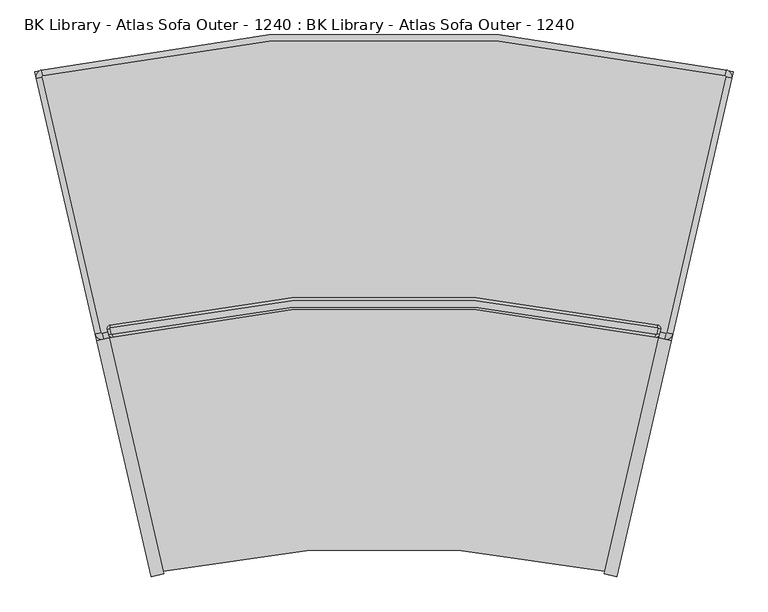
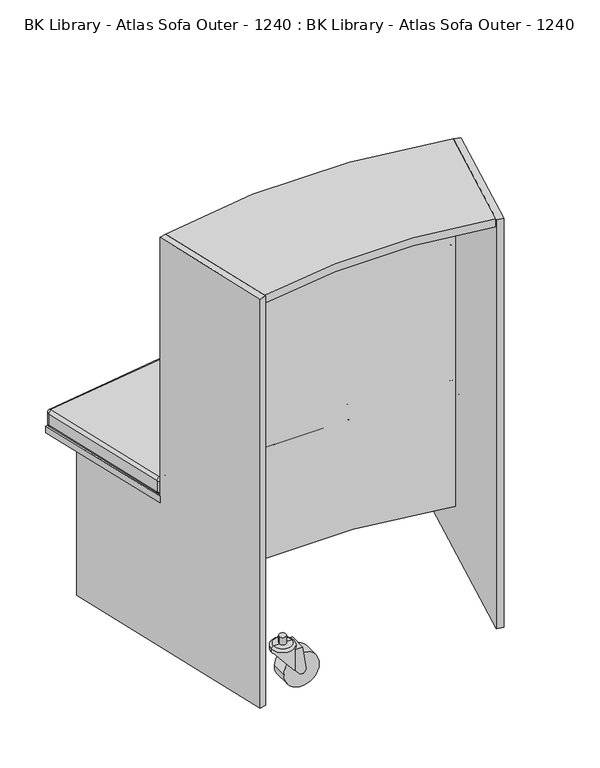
"""IFC4 building model written with IfcOpenShell, lengths in millimetres: furniture geometry, BK Library - Atlas Sofa Outer - 1240 : BK Library - Atlas Sofa Outer - 1240."""

from ifc_helpers import new_model, si_unit, point, frame, frame_2d, origin, place, context, project, spatial, polyline, circle_curve, ellipse_curve, trimmed, segment, composite_curve, outline, extrude, source, transform, mapped, element, save
from ifc_brep_helpers import plane_surface, cylinder_surface, revolved_surface, advanced_brep


def bk_library_atlas_sofa_outer_1240_bk_library_atlas_sofa_outer_185b53af(model_context):
    return source(origin(), model_context, "Body", "SolidModel", [
        advanced_brep(
        [(403.7139871, 34.2467546, 912.6999998), (404.9104332, 34.9971014, 912.6999998), (406.7463468, 42.9588262, 912.6999998), (405.9919545, 44.1590138, 912.6999998), (-405.9919545, 44.1590138, 912.6999998), (-406.7463468, 42.9588262, 912.6999998), (-404.9104332, 34.9971014, 912.6999998), (-403.7139871, 34.2467546, 912.6999998), (404.9104332, 34.9971014, 512.6999998), (403.7139871, 34.2467546, 512.6999998), (-403.7139871, 34.2467546, 512.6999998), (-404.9104332, 34.9971014, 512.6999998), (-406.7463468, 42.9588262, 512.6999998), (-405.9919545, 44.1590138, 512.6999998), (405.9919545, 44.1590138, 512.6999998), (406.7463468, 42.9588262, 512.6999998), (408.8081489, 34.0983176, 908.6999998), (402.8259182, 30.3465836, 908.6999998), (402.8259182, 30.3465836, 516.6999998), (408.8081489, 34.0983176, 516.6999998), (410.6440625, 42.0600424, 908.6999998), (410.6440625, 42.0600424, 516.6999998), (406.872101, 48.0609802, 908.6999998), (406.872101, 48.0609802, 516.6999998), (-406.872101, 48.0609802, 908.6999998), (-406.872101, 48.0609802, 516.6999998), (-410.6440625, 42.0600424, 908.6999998), (-410.6440625, 42.0600424, 516.6999998), (-408.8081489, 34.0983176, 908.6999998), (-408.8081489, 34.0983176, 516.6999998), (-402.8259182, 30.3465836, 908.6999998), (-402.8259182, 30.3465836, 516.6999998)],
        [
            (0, 1, circle_curve(frame((403.9360043, 35.2217973, 912.6999998), z_axis=(0.0, 0.0, 1.0), x_axis=(-0.22201720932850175, -0.9750427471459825, 0.0)), 1.0)),
            (1, 2),
            (2, 3, circle_curve(frame((405.7719179, 43.1835222, 912.6999998), z_axis=(0.0, 0.0, 1.0), x_axis=(0.9744289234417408, -0.22469595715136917, 0.0)), 1.0)),
            (3, 4, circle_curve(frame((0.0, -1755.7311313, 912.6999998), z_axis=(0.0, 0.0, 1.0), x_axis=(0.22003662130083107, 0.9754916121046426, 0.0)), 1845.1108372)),
            (4, 5, circle_curve(frame((-405.7719179, 43.1835222, 912.6999998), z_axis=(0.0, 0.0, 1.0), x_axis=(-0.22003662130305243, 0.9754916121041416, 0.0)), 1.0)),
            (5, 6),
            (6, 7, circle_curve(frame((-403.9360043, 35.2217973, 912.6999998), z_axis=(0.0, 0.0, 1.0), x_axis=(-0.97442892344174, -0.22469595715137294, 0.0)), 1.0)),
            (7, 0, circle_curve(frame((0.0, -1738.7617261, 912.6999998), z_axis=(0.0, 0.0, -1.0), x_axis=(-0.2220172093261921, 0.9750427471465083, 0.0)), 1818.3905125)),
            (8, 9, circle_curve(frame((403.9360043, 35.2217973, 512.6999998), z_axis=(0.0, 0.0, -1.0), x_axis=(-0.22201720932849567, -0.9750427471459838, 0.0)), 1.0)),
            (9, 10, circle_curve(frame((0.0, -1738.7617261, 512.6999998), z_axis=(0.0, 0.0, 1.0), x_axis=(-0.2220172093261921, 0.9750427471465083, 0.0)), 1818.3905125)),
            (10, 11, circle_curve(frame((-403.9360043, 35.2217973, 512.6999998), z_axis=(0.0, 0.0, -1.0), x_axis=(-0.97442892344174, -0.22469595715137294, 0.0)), 1.0)),
            (11, 12),
            (12, 13, circle_curve(frame((-405.7719179, 43.1835222, 512.6999998), z_axis=(0.0, 0.0, -1.0), x_axis=(-0.22003662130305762, 0.9754916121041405, 0.0)), 1.0)),
            (13, 14, circle_curve(frame((0.0, -1755.7311313, 512.6999998), z_axis=(0.0, 0.0, -1.0), x_axis=(0.22003662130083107, 0.9754916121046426, 0.0)), 1845.1108372)),
            (14, 15, circle_curve(frame((405.7719179, 43.1835222, 512.6999998), z_axis=(0.0, 0.0, -1.0), x_axis=(0.9744289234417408, -0.22469595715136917, 0.0)), 1.0)),
            (15, 8),
            (16, 17, circle_curve(frame((403.9360043, 35.2217973, 908.6999998), z_axis=(0.0, 0.0, -1.0), x_axis=(1.0, 0.0, 0.0)), 5.0)),
            (17, 18),
            (18, 19, circle_curve(frame((403.9360043, 35.2217973, 516.6999998), z_axis=(0.0, 0.0, 1.0), x_axis=(1.0, 0.0, 0.0)), 5.0)),
            (19, 16),
            (20, 16),
            (19, 21),
            (21, 20),
            (22, 20, circle_curve(frame((405.7719179, 43.1835222, 908.6999998), z_axis=(0.0, 0.0, -1.0), x_axis=(1.0, 0.0, 0.0)), 5.0)),
            (21, 23, circle_curve(frame((405.7719179, 43.1835222, 516.6999998), z_axis=(0.0, 0.0, 1.0), x_axis=(1.0, 0.0, 0.0)), 5.0)),
            (23, 22),
            (24, 22, circle_curve(frame((0.0, -1755.7311313, 908.6999998), z_axis=(0.0, 0.0, -1.0), x_axis=(1.0, 0.0, 0.0)), 1849.1108372)),
            (23, 25, circle_curve(frame((0.0, -1755.7311313, 516.6999998), z_axis=(0.0, 0.0, 1.0), x_axis=(1.0, 0.0, 0.0)), 1849.1108372)),
            (25, 24),
            (26, 24, circle_curve(frame((-405.7719179, 43.1835222, 908.6999998), z_axis=(0.0, 0.0, -1.0), x_axis=(1.0, 0.0, 0.0)), 5.0)),
            (25, 27, circle_curve(frame((-405.7719179, 43.1835222, 516.6999998), z_axis=(0.0, 0.0, 1.0), x_axis=(1.0, 0.0, 0.0)), 5.0)),
            (27, 26),
            (28, 26),
            (27, 29),
            (29, 28),
            (30, 28, circle_curve(frame((-403.9360043, 35.2217973, 908.6999998), z_axis=(0.0, 0.0, -1.0), x_axis=(1.0, 0.0, 0.0)), 5.0)),
            (29, 31, circle_curve(frame((-403.9360043, 35.2217973, 516.6999998), z_axis=(0.0, 0.0, 1.0), x_axis=(1.0, 0.0, 0.0)), 5.0)),
            (31, 30),
            (17, 30, circle_curve(frame((0.0, -1738.7617261, 908.6999998), z_axis=(0.0, 0.0, 1.0), x_axis=(1.0, 0.0, 0.0)), 1814.3905125)),
            (31, 18, circle_curve(frame((0.0, -1738.7617261, 516.6999998), z_axis=(0.0, 0.0, -1.0), x_axis=(1.0, 0.0, 0.0)), 1814.3905125)),
            (16, 1, circle_curve(frame((404.9104332, 34.9971014, 908.6999998), z_axis=(-0.22469595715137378, -0.9744289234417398, 0.0), x_axis=(-0.9744289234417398, 0.22469595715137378, 0.0)), 4.0)),
            (0, 17, circle_curve(frame((403.7139871, 34.2467546, 908.6999998), z_axis=(0.9750427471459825, -0.2220172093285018, 0.0), x_axis=(0.2220172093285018, 0.9750427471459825, 0.0)), 4.0)),
            (20, 2, circle_curve(frame((406.7463468, 42.9588262, 908.6999998), z_axis=(-0.22469595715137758, -0.974428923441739, 0.0), x_axis=(-0.974428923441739, 0.22469595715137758, 0.0)), 4.0)),
            (22, 3, circle_curve(frame((405.9919545, 44.1590138, 908.6999998), z_axis=(0.9754916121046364, -0.22003662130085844, 0.0), x_axis=(-0.22003662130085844, -0.9754916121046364, 0.0)), 4.0)),
            (24, 4, circle_curve(frame((-405.9919545, 44.1590138, 908.6999998), z_axis=(0.9754916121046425, 0.22003662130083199, 0.0), x_axis=(0.22003662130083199, -0.9754916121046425, 0.0)), 4.0)),
            (26, 5, circle_curve(frame((-406.7463468, 42.9588262, 908.6999998), z_axis=(-0.22469595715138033, 0.9744289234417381, 0.0), x_axis=(0.9744289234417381, 0.22469595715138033, 0.0)), 4.0)),
            (28, 6, circle_curve(frame((-404.9104332, 34.9971014, 908.6999998), z_axis=(-0.22469595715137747, 0.974428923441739, 0.0), x_axis=(0.974428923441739, 0.22469595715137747, 0.0)), 4.0)),
            (30, 7, circle_curve(frame((-403.7139871, 34.2467546, 908.6999998), z_axis=(-0.9750427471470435, -0.22201720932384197, 0.0), x_axis=(-0.22201720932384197, 0.9750427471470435, 0.0)), 4.0)),
            (8, 19, circle_curve(frame((404.9104332, 34.9971014, 516.6999998), z_axis=(-0.22469595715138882, -0.9744289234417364, 0.0), x_axis=(-0.9744289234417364, 0.22469595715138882, 0.0)), 4.0)),
            (18, 9, circle_curve(frame((403.7139871, 34.2467546, 516.6999998), z_axis=(0.9750427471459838, -0.22201720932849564, 0.0), x_axis=(0.22201720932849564, 0.9750427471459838, 0.0)), 4.0)),
            (15, 21, circle_curve(frame((406.7463468, 42.9588262, 516.6999998), z_axis=(-0.2246959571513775, -0.974428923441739, 0.0), x_axis=(-0.974428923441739, 0.2246959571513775, 0.0)), 4.0)),
            (14, 23, circle_curve(frame((405.9919545, 44.1590138, 516.6999998), z_axis=(0.9754916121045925, -0.2200366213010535, 0.0), x_axis=(-0.2200366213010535, -0.9754916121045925, 0.0)), 4.0)),
            (13, 25, circle_curve(frame((-405.9919545, 44.1590138, 516.6999998), z_axis=(0.9754916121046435, 0.22003662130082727, 0.0), x_axis=(0.22003662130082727, -0.9754916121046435, 0.0)), 4.0)),
            (12, 27, circle_curve(frame((-406.7463468, 42.9588262, 516.6999998), z_axis=(-0.22469595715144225, 0.974428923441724, 0.0), x_axis=(0.974428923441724, 0.22469595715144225, 0.0)), 4.0)),
            (11, 29, circle_curve(frame((-404.9104332, 34.9971014, 516.6999998), z_axis=(-0.22469595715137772, 0.974428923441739, 0.0), x_axis=(0.974428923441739, 0.22469595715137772, 0.0)), 4.0)),
            (10, 31, circle_curve(frame((-403.7139871, 34.2467546, 516.6999998), z_axis=(-0.9750427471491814, -0.22201720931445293, 0.0), x_axis=(-0.22201720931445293, 0.9750427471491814, 0.0)), 4.0)),
        ],
        [
            plane_surface(frame((408.9360043, 35.2217973, 912.6999998), z_axis=(0.0, 0.0, 1.0), x_axis=(0.0, 1.0, 0.0))),
            plane_surface(frame((408.9360043, 35.2217973, 512.6999998), z_axis=(0.0, 0.0, -1.0), x_axis=(0.0, -1.0, 0.0))),
            cylinder_surface(frame((403.9360043, 35.2217973, 512.6999998), z_axis=(0.0, 0.0, 1.0), x_axis=(1.0, 0.0, 0.0)), 5.0),
            plane_surface(frame((408.8081489, 34.0983176, 912.6999998), z_axis=(0.9744289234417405, -0.22469595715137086, 0.0), x_axis=(0.0, 0.0, -1.0))),
            cylinder_surface(frame((405.7719179, 43.1835222, 512.6999998), z_axis=(0.0, 0.0, 1.0), x_axis=(1.0, 0.0, 0.0)), 5.0),
            cylinder_surface(frame((0.0, -1755.7311313, 512.6999998), z_axis=(0.0, 0.0, 1.0), x_axis=(1.0, 0.0, 0.0)), 1849.1108372),
            cylinder_surface(frame((-405.7719179, 43.1835222, 512.6999998), z_axis=(0.0, 0.0, 1.0), x_axis=(1.0, 0.0, 0.0)), 5.0),
            plane_surface(frame((-410.6440625, 42.0600424, 912.6999998), z_axis=(-0.974428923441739, -0.2246959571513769, 0.0), x_axis=(0.0, 0.0, -1.0))),
            cylinder_surface(frame((-403.9360043, 35.2217973, 512.6999998), z_axis=(0.0, 0.0, 1.0), x_axis=(1.0, 0.0, 0.0)), 5.0),
            revolved_surface(polyline([(1814.3905125, -1738.7617261, 516.6999998), (1814.3905125, -1738.7617261, 908.6999998)]), (0.0, -1738.7617261, 512.6999998), (0.0, 0.0, -1.0)),
            revolved_surface(trimmed(ellipse_curve(frame((403.7139871, 34.2467546, 908.6999998), z_axis=(-0.9750427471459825, 0.2220172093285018, 0.0), x_axis=(0.2220172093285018, 0.9750427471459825, 0.0)), 4.0, 4.0), [point((402.8259182, 30.3465836, 908.6999998))], [point((403.7139871, 34.2467546, 912.6999998))], True, "CARTESIAN"), (403.9360043, 35.2217973, 0.0), (0.0, 0.0, 1.0)),
            cylinder_surface(frame((404.9104332, 34.9971014, 908.6999998), z_axis=(0.22469595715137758, 0.974428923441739, 0.0), x_axis=(-0.974428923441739, 0.22469595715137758, 0.0)), 4.0),
            revolved_surface(trimmed(ellipse_curve(frame((406.7463468, 42.9588262, 908.6999998), z_axis=(-0.22469595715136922, -0.9744289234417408, 0.0), x_axis=(-0.9744289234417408, 0.22469595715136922, 0.0)), 4.0, 4.0), [point((410.6440625, 42.0600424, 908.6999998))], [point((406.7463468, 42.9588262, 912.6999998))], True, "CARTESIAN"), (405.7719179, 43.1835222, 0.0), (0.0, 0.0, 1.0)),
            revolved_surface(trimmed(ellipse_curve(frame((405.9919545, 44.1590138, 908.6999998), z_axis=(0.9754916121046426, -0.2200366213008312, 0.0), x_axis=(-0.2200366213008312, -0.9754916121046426, 0.0)), 4.0, 4.0), [point((406.872101, 48.0609802, 908.6999998))], [point((405.9919545, 44.1590138, 912.6999998))], True, "CARTESIAN"), (0.0, -1755.7311313, 0.0), (0.0, 0.0, 1.0)),
            revolved_surface(trimmed(ellipse_curve(frame((-405.9919545, 44.1590138, 908.6999998), z_axis=(0.9754916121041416, 0.22003662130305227, 0.0), x_axis=(0.22003662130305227, -0.9754916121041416, 0.0)), 4.0, 4.0), [point((-406.872101, 48.0609802, 908.6999998))], [point((-405.9919545, 44.1590138, 912.6999998))], True, "CARTESIAN"), (-405.7719179, 43.1835222, 0.0), (0.0, 0.0, 1.0)),
            cylinder_surface(frame((-406.7463468, 42.9588262, 908.6999998), z_axis=(0.22469595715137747, -0.974428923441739, 0.0), x_axis=(0.974428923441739, 0.22469595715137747, 0.0)), 4.0),
            revolved_surface(trimmed(ellipse_curve(frame((-404.9104332, 34.9971014, 908.6999998), z_axis=(-0.2246959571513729, 0.97442892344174, 0.0), x_axis=(0.97442892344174, 0.2246959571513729, 0.0)), 4.0, 4.0), [point((-408.8081489, 34.0983176, 908.6999998))], [point((-404.9104332, 34.9971014, 912.6999998))], True, "CARTESIAN"), (-403.9360043, 35.2217973, 0.0), (0.0, 0.0, 1.0)),
            revolved_surface(trimmed(ellipse_curve(frame((-403.7139871, 34.2467546, 908.6999998), z_axis=(-0.9750427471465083, -0.22201720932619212, 0.0), x_axis=(-0.22201720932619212, 0.9750427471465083, 0.0)), 4.0, 4.0), [point((-402.8259182, 30.3465836, 908.6999998))], [point((-403.7139871, 34.2467546, 912.6999998))], True, "CARTESIAN"), (0.0, -1738.7617261, 0.0), (0.0, 0.0, -1.0)),
            revolved_surface(trimmed(ellipse_curve(frame((403.7139871, 34.2467546, 516.6999998), z_axis=(-0.9750427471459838, 0.22201720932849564, 0.0), x_axis=(0.22201720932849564, 0.9750427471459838, 0.0)), 4.0, 4.0), [point((403.7139871, 34.2467546, 512.6999998))], [point((402.8259182, 30.3465836, 516.6999998))], True, "CARTESIAN"), (403.9360043, 35.2217973, 1425.3999996), (0.0, 0.0, 1.0)),
            cylinder_surface(frame((404.9104332, 34.9971014, 516.6999998), z_axis=(0.2246959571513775, 0.974428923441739, 0.0), x_axis=(-0.974428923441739, 0.2246959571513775, 0.0)), 4.0),
            revolved_surface(trimmed(ellipse_curve(frame((406.7463468, 42.9588262, 516.6999998), z_axis=(-0.22469595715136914, -0.9744289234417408, 0.0), x_axis=(-0.9744289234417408, 0.22469595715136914, 0.0)), 4.0, 4.0), [point((406.7463468, 42.9588262, 512.6999998))], [point((410.6440625, 42.0600424, 516.6999998))], True, "CARTESIAN"), (405.7719179, 43.1835222, 1425.3999996), (0.0, 0.0, 1.0)),
            revolved_surface(trimmed(ellipse_curve(frame((405.9919545, 44.1590138, 516.6999998), z_axis=(0.9754916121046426, -0.22003662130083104, 0.0), x_axis=(-0.22003662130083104, -0.9754916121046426, 0.0)), 4.0, 4.0), [point((405.9919545, 44.1590138, 512.6999998))], [point((406.872101, 48.0609802, 516.6999998))], True, "CARTESIAN"), (0.0, -1755.7311313, 1425.3999996), (0.0, 0.0, 1.0)),
            revolved_surface(trimmed(ellipse_curve(frame((-405.9919545, 44.1590138, 516.6999998), z_axis=(0.9754916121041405, 0.2200366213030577, 0.0), x_axis=(0.2200366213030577, -0.9754916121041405, 0.0)), 4.0, 4.0), [point((-405.9919545, 44.1590138, 512.6999998))], [point((-406.872101, 48.0609802, 516.6999998))], True, "CARTESIAN"), (-405.7719179, 43.1835222, 1425.3999996), (0.0, 0.0, 1.0)),
            cylinder_surface(frame((-406.7463468, 42.9588262, 516.6999998), z_axis=(0.22469595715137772, -0.974428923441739, 0.0), x_axis=(0.974428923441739, 0.22469595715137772, 0.0)), 4.0),
            revolved_surface(trimmed(ellipse_curve(frame((-404.9104332, 34.9971014, 516.6999998), z_axis=(-0.22469595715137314, 0.97442892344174, 0.0), x_axis=(0.97442892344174, 0.22469595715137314, 0.0)), 4.0, 4.0), [point((-404.9104332, 34.9971014, 512.6999998))], [point((-408.8081489, 34.0983176, 516.6999998))], True, "CARTESIAN"), (-403.9360043, 35.2217973, 1425.3999996), (0.0, 0.0, 1.0)),
            revolved_surface(trimmed(ellipse_curve(frame((-403.7139871, 34.2467546, 516.6999998), z_axis=(-0.9750427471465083, -0.22201720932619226, 0.0), x_axis=(-0.22201720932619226, 0.9750427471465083, 0.0)), 4.0, 4.0), [point((-403.7139871, 34.2467546, 512.6999998))], [point((-402.8259182, 30.3465836, 516.6999998))], True, "CARTESIAN"), (0.0, -1738.7617261, 1425.3999996), (0.0, 0.0, -1.0)),
        ],
        [
            (0, [[1, 2, 3, 4, 5, 6, 7, 8]]),
            (1, [[9, 10, 11, 12, 13, 14, 15, 16]]),
            (2, [[17, 18, 19, 20]]),
            (3, [[21, -20, 22, 23]]),
            (4, [[24, -23, 25, 26]]),
            (5, [[27, -26, 28, 29]]),
            (6, [[30, -29, 31, 32]]),
            (7, [[33, -32, 34, 35]]),
            (8, [[36, -35, 37, 38]]),
            (9, [[39, -38, 40, -18]]),
            (10, [[41, -1, 42, -17]]),
            (11, [[-41, -21, 43, -2]]),
            (12, [[-43, -24, 44, -3]]),
            (13, [[-44, -27, 45, -4]]),
            (14, [[-45, -30, 46, -5]]),
            (15, [[-46, -33, 47, -6]]),
            (16, [[-47, -36, 48, -7]]),
            (17, [[-42, -8, -48, -39]]),
            (18, [[49, -19, 50, -9]]),
            (19, [[-49, -16, 51, -22]]),
            (20, [[-51, -15, 52, -25]]),
            (21, [[-52, -14, 53, -28]]),
            (22, [[-53, -13, 54, -31]]),
            (23, [[-54, -12, 55, -34]]),
            (24, [[-55, -11, 56, -37]]),
            (25, [[-50, -40, -56, -10]]),
        ],
    ),
        advanced_brep(
        [(-419.6774617, 36.7301974, 512.6999998), (-418.4783368, 35.9804644, 512.6999998), (-409.7084765, 38.002728, 512.6999998), (409.7084765, 38.002728, 512.6999998), (418.4783368, 35.9804644, 512.6999998), (419.6774617, 36.7301974, 512.6999998), (507.3202, 416.806547, 512.6999998), (506.5732105, 418.0050352, 512.6999998), (-506.5732105, 418.0050352, 512.6999998), (-507.3202, 416.806547, 512.6999998), (-418.4783368, 35.9804644, 462.6999998), (-419.6774617, 36.7301974, 462.6999998), (-507.3202, 416.806547, 462.6999998), (-506.5732105, 418.0050352, 462.6999998), (506.5732105, 418.0050352, 462.6999998), (507.3202, 416.806547, 462.6999998), (419.6774617, 36.7301974, 462.6999998), (418.4783368, 35.9804644, 462.6999998), (409.7084765, 38.002728, 462.6999998), (-409.7084765, 38.002728, 462.6999998), (-516.0900603, 414.7842834, 503.6999998), (-508.6201649, 426.7691653, 503.6999998), (-508.6201649, 426.7691653, 471.6999998), (-516.0900603, 414.7842834, 471.6999998), (-428.447322, 34.7079338, 503.6999998), (-428.447322, 34.7079338, 471.6999998), (-416.4560732, 27.2106041, 503.6999998), (-416.4560732, 27.2106041, 471.6999998), (-407.6862129, 29.2328677, 503.6999998), (-407.6862129, 29.2328677, 471.6999998), (407.6862129, 29.2328677, 503.6999998), (407.6862129, 29.2328677, 471.6999998), (416.4560732, 27.2106041, 503.6999998), (416.4560732, 27.2106041, 471.6999998), (428.447322, 34.7079338, 503.6999998), (428.447322, 34.7079338, 471.6999998), (516.0900603, 414.7842834, 503.6999998), (516.0900603, 414.7842834, 471.6999998), (508.6201649, 426.7691653, 503.6999998), (508.6201649, 426.7691653, 471.6999998)],
        [
            (0, 1, circle_curve(frame((-418.7030327, 36.9548933, 512.6999998), z_axis=(0.0, 0.0, 1.0), x_axis=(-0.9744289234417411, -0.22469595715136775, 0.0)), 1.0)),
            (1, 2),
            (2, 3, circle_curve(frame((0.0, -1738.7617261, 512.6999998), z_axis=(0.0, 0.0, -1.0), x_axis=(-0.22469595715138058, 0.9744289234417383, 0.0)), 1823.3905125)),
            (3, 4),
            (4, 5, circle_curve(frame((418.7030327, 36.9548933, 512.6999998), z_axis=(0.0, 0.0, 1.0), x_axis=(-0.22469595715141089, -0.9744289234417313, 0.0)), 1.0)),
            (5, 6),
            (6, 7, circle_curve(frame((506.3457711, 417.0312429, 512.6999998), z_axis=(0.0, 0.0, 1.0), x_axis=(0.9744289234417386, -0.2246959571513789, 0.0)), 1.0)),
            (7, 8, circle_curve(frame((0.0, -1750.9115951, 512.6999998), z_axis=(0.0, 0.0, 1.0), x_axis=(0.22743938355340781, 0.9737922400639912, 0.0)), 2227.2888826)),
            (8, 9, circle_curve(frame((-506.3457711, 417.0312429, 512.6999998), z_axis=(0.0, 0.0, 1.0), x_axis=(-0.22743938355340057, 0.9737922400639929, 0.0)), 1.0)),
            (9, 0),
            (10, 11, circle_curve(frame((-418.7030327, 36.9548933, 462.6999998), z_axis=(0.0, 0.0, -1.0), x_axis=(-0.9744289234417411, -0.22469595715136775, 0.0)), 1.0)),
            (11, 12),
            (12, 13, circle_curve(frame((-506.3457711, 417.0312429, 462.6999998), z_axis=(0.0, 0.0, -1.0), x_axis=(-0.22743938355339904, 0.9737922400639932, 0.0)), 1.0)),
            (13, 14, circle_curve(frame((0.0, -1750.9115951, 462.6999998), z_axis=(0.0, 0.0, -1.0), x_axis=(0.22743938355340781, 0.9737922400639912, 0.0)), 2227.2888826)),
            (14, 15, circle_curve(frame((506.3457711, 417.0312429, 462.6999998), z_axis=(0.0, 0.0, -1.0), x_axis=(0.9744289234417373, -0.224695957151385, 0.0)), 1.0)),
            (15, 16),
            (16, 17, circle_curve(frame((418.7030327, 36.9548933, 462.6999998), z_axis=(0.0, 0.0, -1.0), x_axis=(-0.22469595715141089, -0.9744289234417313, 0.0)), 1.0)),
            (17, 18),
            (18, 19, circle_curve(frame((0.0, -1738.7617261, 462.6999998), z_axis=(0.0, 0.0, 1.0), x_axis=(-0.22469595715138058, 0.9744289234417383, 0.0)), 1823.3905125)),
            (19, 10),
            (20, 21, circle_curve(frame((-506.3457711, 417.0312429, 503.6999998), z_axis=(0.0, 0.0, -1.0), x_axis=(1.0, 0.0, 0.0)), 10.0)),
            (21, 22),
            (22, 23, circle_curve(frame((-506.3457711, 417.0312429, 471.6999998), z_axis=(0.0, 0.0, 1.0), x_axis=(1.0, 0.0, 0.0)), 10.0)),
            (23, 20),
            (24, 20),
            (23, 25),
            (25, 24),
            (26, 24, circle_curve(frame((-418.7030327, 36.9548933, 503.6999998), z_axis=(0.0, 0.0, -1.0), x_axis=(1.0, 0.0, 0.0)), 10.0)),
            (25, 27, circle_curve(frame((-418.7030327, 36.9548933, 471.6999998), z_axis=(0.0, 0.0, 1.0), x_axis=(1.0, 0.0, 0.0)), 10.0)),
            (27, 26),
            (28, 26),
            (27, 29),
            (29, 28),
            (30, 28, circle_curve(frame((0.0, -1738.7617261, 503.6999998), z_axis=(0.0, 0.0, 1.0), x_axis=(1.0, 0.0, 0.0)), 1814.3905125)),
            (29, 31, circle_curve(frame((0.0, -1738.7617261, 471.6999998), z_axis=(0.0, 0.0, -1.0), x_axis=(1.0, 0.0, 0.0)), 1814.3905125)),
            (31, 30),
            (32, 30),
            (31, 33),
            (33, 32),
            (34, 32, circle_curve(frame((418.7030327, 36.9548933, 503.6999998), z_axis=(0.0, 0.0, -1.0), x_axis=(1.0, 0.0, 0.0)), 10.0)),
            (33, 35, circle_curve(frame((418.7030327, 36.9548933, 471.6999998), z_axis=(0.0, 0.0, 1.0), x_axis=(1.0, 0.0, 0.0)), 10.0)),
            (35, 34),
            (36, 34),
            (35, 37),
            (37, 36),
            (38, 36, circle_curve(frame((506.3457711, 417.0312429, 503.6999998), z_axis=(0.0, 0.0, -1.0), x_axis=(1.0, 0.0, 0.0)), 10.0)),
            (37, 39, circle_curve(frame((506.3457711, 417.0312429, 471.6999998), z_axis=(0.0, 0.0, 1.0), x_axis=(1.0, 0.0, 0.0)), 10.0)),
            (39, 38),
            (21, 38, circle_curve(frame((0.0, -1750.9115951, 503.6999998), z_axis=(0.0, 0.0, -1.0), x_axis=(1.0, 0.0, 0.0)), 2236.2888826)),
            (39, 22, circle_curve(frame((0.0, -1750.9115951, 471.6999998), z_axis=(0.0, 0.0, 1.0), x_axis=(1.0, 0.0, 0.0)), 2236.2888826)),
            (26, 1, circle_curve(frame((-418.4783368, 35.9804644, 503.6999998), z_axis=(-0.9744289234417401, -0.22469595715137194, 0.0), x_axis=(-0.22469595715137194, 0.9744289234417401, 0.0)), 9.0)),
            (0, 24, circle_curve(frame((-419.6774617, 36.7301974, 503.6999998), z_axis=(0.22469595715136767, -0.9744289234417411, 0.0), x_axis=(0.9744289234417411, 0.22469595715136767, 0.0)), 9.0)),
            (28, 2, circle_curve(frame((-409.7084765, 38.002728, 503.6999998), z_axis=(-0.9744289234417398, -0.2246959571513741, 0.0), x_axis=(-0.2246959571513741, 0.9744289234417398, 0.0)), 9.0)),
            (30, 3, circle_curve(frame((409.7084765, 38.002728, 503.6999998), z_axis=(-0.9744289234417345, 0.22469595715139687, 0.0), x_axis=(0.22469595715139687, 0.9744289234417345, 0.0)), 9.0)),
            (32, 4, circle_curve(frame((418.4783368, 35.9804644, 503.6999998), z_axis=(-0.974428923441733, 0.22469595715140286, 0.0), x_axis=(0.22469595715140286, 0.974428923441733, 0.0)), 9.0)),
            (34, 5, circle_curve(frame((419.6774617, 36.7301974, 503.6999998), z_axis=(-0.22469595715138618, -0.9744289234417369, 0.0), x_axis=(-0.9744289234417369, 0.22469595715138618, 0.0)), 9.0)),
            (36, 6, circle_curve(frame((507.3202, 416.806547, 503.6999998), z_axis=(-0.22469595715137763, -0.9744289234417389, 0.0), x_axis=(-0.9744289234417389, 0.22469595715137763, 0.0)), 9.0)),
            (38, 7, circle_curve(frame((506.5732105, 418.0050352, 503.6999998), z_axis=(0.9737922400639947, -0.22743938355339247, 0.0), x_axis=(-0.22743938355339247, -0.9737922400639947, 0.0)), 9.0)),
            (21, 8, circle_curve(frame((-506.5732105, 418.0050352, 503.6999998), z_axis=(0.9737922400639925, 0.22743938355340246, 0.0), x_axis=(0.22743938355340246, -0.9737922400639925, 0.0)), 9.0)),
            (20, 9, circle_curve(frame((-507.3202, 416.806547, 503.6999998), z_axis=(-0.22469595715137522, 0.9744289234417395, 0.0), x_axis=(0.9744289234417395, 0.22469595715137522, 0.0)), 9.0)),
            (10, 27, circle_curve(frame((-418.4783368, 35.9804644, 471.6999998), z_axis=(-0.9744289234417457, -0.22469595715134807, 0.0), x_axis=(-0.22469595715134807, 0.9744289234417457, 0.0)), 9.0)),
            (25, 11, circle_curve(frame((-419.6774617, 36.7301974, 471.6999998), z_axis=(0.22469595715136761, -0.9744289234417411, 0.0), x_axis=(0.9744289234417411, 0.22469595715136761, 0.0)), 9.0)),
            (19, 29, circle_curve(frame((-409.7084765, 38.002728, 471.6999998), z_axis=(-0.9744289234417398, -0.224695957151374, 0.0), x_axis=(-0.224695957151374, 0.9744289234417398, 0.0)), 9.0)),
            (18, 31, circle_curve(frame((409.7084765, 38.002728, 471.6999998), z_axis=(-0.9744289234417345, 0.22469595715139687, 0.0), x_axis=(0.22469595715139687, 0.9744289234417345, 0.0)), 9.0)),
            (17, 33, circle_curve(frame((418.4783368, 35.9804644, 471.6999998), z_axis=(-0.9744289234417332, 0.22469595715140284, 0.0), x_axis=(0.22469595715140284, 0.9744289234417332, 0.0)), 9.0)),
            (16, 35, circle_curve(frame((419.6774617, 36.7301974, 471.6999998), z_axis=(-0.22469595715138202, -0.9744289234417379, 0.0), x_axis=(-0.9744289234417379, 0.22469595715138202, 0.0)), 9.0)),
            (15, 37, circle_curve(frame((507.3202, 416.806547, 471.6999998), z_axis=(-0.22469595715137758, -0.9744289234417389, 0.0), x_axis=(-0.9744289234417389, 0.22469595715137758, 0.0)), 9.0)),
            (14, 39, circle_curve(frame((506.5732105, 418.0050352, 471.6999998), z_axis=(0.9737922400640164, -0.2274393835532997, 0.0), x_axis=(-0.2274393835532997, -0.9737922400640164, 0.0)), 9.0)),
            (13, 22, circle_curve(frame((-506.5732105, 418.0050352, 471.6999998), z_axis=(0.9737922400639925, 0.22743938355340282, 0.0), x_axis=(0.22743938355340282, -0.9737922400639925, 0.0)), 9.0)),
            (12, 23, circle_curve(frame((-507.3202, 416.806547, 471.6999998), z_axis=(-0.2246959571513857, 0.974428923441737, 0.0), x_axis=(0.974428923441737, 0.2246959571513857, 0.0)), 9.0)),
        ],
        [
            plane_surface(frame((-496.3457711, 417.0312429, 512.6999998), z_axis=(0.0, 0.0, 1.0), x_axis=(0.0, 1.0, 0.0))),
            plane_surface(frame((-496.3457711, 417.0312429, 462.6999998), z_axis=(0.0, 0.0, -1.0), x_axis=(0.0, -1.0, 0.0))),
            cylinder_surface(frame((-506.3457711, 417.0312429, 462.6999998), z_axis=(0.0, 0.0, 1.0), x_axis=(1.0, 0.0, 0.0)), 10.0),
            plane_surface(frame((-516.0900603, 414.7842834, 512.6999998), z_axis=(-0.9744289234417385, -0.22469595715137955, 0.0), x_axis=(0.0, 0.0, -1.0))),
            cylinder_surface(frame((-418.7030327, 36.9548933, 462.6999998), z_axis=(0.0, 0.0, 1.0), x_axis=(1.0, 0.0, 0.0)), 10.0),
            plane_surface(frame((-416.4560732, 27.2106041, 512.6999998), z_axis=(0.22469595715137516, -0.9744289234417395, 0.0), x_axis=(0.0, 0.0, -1.0))),
            revolved_surface(polyline([(1814.3905125, -1738.7617261, 471.6999998), (1814.3905125, -1738.7617261, 503.6999998)]), (0.0, -1738.7617261, 462.6999998), (0.0, 0.0, -1.0)),
            plane_surface(frame((407.6862129, 29.2328677, 512.6999998), z_axis=(-0.22469595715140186, -0.9744289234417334, 0.0), x_axis=(0.0, 0.0, -1.0))),
            cylinder_surface(frame((418.7030327, 36.9548933, 462.6999998), z_axis=(0.0, 0.0, 1.0), x_axis=(1.0, 0.0, 0.0)), 10.0),
            plane_surface(frame((428.447322, 34.7079338, 512.6999998), z_axis=(0.9744289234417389, -0.2246959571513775, 0.0), x_axis=(0.0, 0.0, -1.0))),
            cylinder_surface(frame((506.3457711, 417.0312429, 462.6999998), z_axis=(0.0, 0.0, 1.0), x_axis=(1.0, 0.0, 0.0)), 10.0),
            cylinder_surface(frame((0.0, -1750.9115951, 462.6999998), z_axis=(0.0, 0.0, 1.0), x_axis=(1.0, 0.0, 0.0)), 2236.2888826),
            revolved_surface(trimmed(ellipse_curve(frame((-419.6774617, 36.7301974, 503.6999998), z_axis=(-0.22469595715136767, 0.9744289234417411, 0.0), x_axis=(0.9744289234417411, 0.22469595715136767, 0.0)), 9.0, 9.0), [point((-428.447322, 34.7079338, 503.6999998))], [point((-419.6774617, 36.7301974, 512.6999998))], True, "CARTESIAN"), (-418.7030327, 36.9548933, 0.0), (0.0, 0.0, 1.0)),
            cylinder_surface(frame((-418.4783368, 35.9804644, 503.6999998), z_axis=(0.9744289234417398, 0.2246959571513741, 0.0), x_axis=(-0.2246959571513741, 0.9744289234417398, 0.0)), 9.0),
            revolved_surface(trimmed(ellipse_curve(frame((-409.7084765, 38.002728, 503.6999998), z_axis=(-0.9744289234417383, -0.22469595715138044, 0.0), x_axis=(-0.22469595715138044, 0.9744289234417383, 0.0)), 9.0, 9.0), [point((-407.6862129, 29.2328677, 503.6999998))], [point((-409.7084765, 38.002728, 512.6999998))], True, "CARTESIAN"), (0.0, -1738.7617261, 0.0), (0.0, 0.0, -1.0)),
            cylinder_surface(frame((409.7084765, 38.002728, 503.6999998), z_axis=(0.974428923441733, -0.22469595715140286, 0.0), x_axis=(0.22469595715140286, 0.974428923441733, 0.0)), 9.0),
            revolved_surface(trimmed(ellipse_curve(frame((418.4783368, 35.9804644, 503.6999998), z_axis=(-0.9744289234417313, 0.224695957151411, 0.0), x_axis=(0.224695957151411, 0.9744289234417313, 0.0)), 9.0, 9.0), [point((416.4560732, 27.2106041, 503.6999998))], [point((418.4783368, 35.9804644, 512.6999998))], True, "CARTESIAN"), (418.7030327, 36.9548933, 0.0), (0.0, 0.0, 1.0)),
            cylinder_surface(frame((419.6774617, 36.7301974, 503.6999998), z_axis=(0.22469595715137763, 0.9744289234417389, 0.0), x_axis=(-0.9744289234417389, 0.22469595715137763, 0.0)), 9.0),
            revolved_surface(trimmed(ellipse_curve(frame((507.3202, 416.806547, 503.6999998), z_axis=(-0.2246959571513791, -0.9744289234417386, 0.0), x_axis=(-0.9744289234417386, 0.2246959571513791, 0.0)), 9.0, 9.0), [point((516.0900603, 414.7842834, 503.6999998))], [point((507.3202, 416.806547, 512.6999998))], True, "CARTESIAN"), (506.3457711, 417.0312429, 0.0), (0.0, 0.0, 1.0)),
            revolved_surface(trimmed(ellipse_curve(frame((506.5732105, 418.0050352, 503.6999998), z_axis=(0.9737922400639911, -0.22743938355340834, 0.0), x_axis=(-0.22743938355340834, -0.9737922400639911, 0.0)), 9.0, 9.0), [point((508.6201649, 426.7691653, 503.6999998))], [point((506.5732105, 418.0050352, 512.6999998))], True, "CARTESIAN"), (0.0, -1750.9115951, 0.0), (0.0, 0.0, 1.0)),
            revolved_surface(trimmed(ellipse_curve(frame((-506.5732105, 418.0050352, 503.6999998), z_axis=(0.973792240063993, 0.22743938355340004, 0.0), x_axis=(0.22743938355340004, -0.973792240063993, 0.0)), 9.0, 9.0), [point((-508.6201649, 426.7691653, 503.6999998))], [point((-506.5732105, 418.0050352, 512.6999998))], True, "CARTESIAN"), (-506.3457711, 417.0312429, 0.0), (0.0, 0.0, 1.0)),
            cylinder_surface(frame((-507.3202, 416.806547, 503.6999998), z_axis=(0.22469595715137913, -0.9744289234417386, 0.0), x_axis=(0.9744289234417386, 0.22469595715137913, 0.0)), 9.0),
            revolved_surface(trimmed(ellipse_curve(frame((-419.6774617, 36.7301974, 471.6999998), z_axis=(-0.22469595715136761, 0.9744289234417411, 0.0), x_axis=(0.9744289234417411, 0.22469595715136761, 0.0)), 9.0, 9.0), [point((-419.6774617, 36.7301974, 462.6999998))], [point((-428.447322, 34.7079338, 471.6999998))], True, "CARTESIAN"), (-418.7030327, 36.9548933, 975.3999996), (0.0, 0.0, 1.0)),
            cylinder_surface(frame((-418.4783368, 35.9804644, 471.6999998), z_axis=(0.9744289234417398, 0.224695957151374, 0.0), x_axis=(-0.224695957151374, 0.9744289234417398, 0.0)), 9.0),
            revolved_surface(trimmed(ellipse_curve(frame((-409.7084765, 38.002728, 471.6999998), z_axis=(-0.9744289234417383, -0.22469595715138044, 0.0), x_axis=(-0.22469595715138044, 0.9744289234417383, 0.0)), 9.0, 9.0), [point((-409.7084765, 38.002728, 462.6999998))], [point((-407.6862129, 29.2328677, 471.6999998))], True, "CARTESIAN"), (0.0, -1738.7617261, 975.3999996), (0.0, 0.0, -1.0)),
            cylinder_surface(frame((409.7084765, 38.002728, 471.6999998), z_axis=(0.9744289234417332, -0.22469595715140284, 0.0), x_axis=(0.22469595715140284, 0.9744289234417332, 0.0)), 9.0),
            revolved_surface(trimmed(ellipse_curve(frame((418.4783368, 35.9804644, 471.6999998), z_axis=(-0.9744289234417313, 0.22469595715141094, 0.0), x_axis=(0.22469595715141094, 0.9744289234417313, 0.0)), 9.0, 9.0), [point((418.4783368, 35.9804644, 462.6999998))], [point((416.4560732, 27.2106041, 471.6999998))], True, "CARTESIAN"), (418.7030327, 36.9548933, 975.3999996), (0.0, 0.0, 1.0)),
            cylinder_surface(frame((419.6774617, 36.7301974, 471.6999998), z_axis=(0.22469595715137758, 0.9744289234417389, 0.0), x_axis=(-0.9744289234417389, 0.22469595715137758, 0.0)), 9.0),
            revolved_surface(trimmed(ellipse_curve(frame((507.3202, 416.806547, 471.6999998), z_axis=(-0.22469595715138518, -0.9744289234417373, 0.0), x_axis=(-0.9744289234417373, 0.22469595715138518, 0.0)), 9.0, 9.0), [point((507.3202, 416.806547, 462.6999998))], [point((516.0900603, 414.7842834, 471.6999998))], True, "CARTESIAN"), (506.3457711, 417.0312429, 975.3999996), (0.0, 0.0, 1.0)),
            revolved_surface(trimmed(ellipse_curve(frame((506.5732105, 418.0050352, 471.6999998), z_axis=(0.9737922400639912, -0.227439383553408, 0.0), x_axis=(-0.227439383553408, -0.9737922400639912, 0.0)), 9.0, 9.0), [point((506.5732105, 418.0050352, 462.6999998))], [point((508.6201649, 426.7691653, 471.6999998))], True, "CARTESIAN"), (0.0, -1750.9115951, 975.3999996), (0.0, 0.0, 1.0)),
            revolved_surface(trimmed(ellipse_curve(frame((-506.5732105, 418.0050352, 471.6999998), z_axis=(0.9737922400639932, 0.22743938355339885, 0.0), x_axis=(0.22743938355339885, -0.9737922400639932, 0.0)), 9.0, 9.0), [point((-506.5732105, 418.0050352, 462.6999998))], [point((-508.6201649, 426.7691653, 471.6999998))], True, "CARTESIAN"), (-506.3457711, 417.0312429, 975.3999996), (0.0, 0.0, 1.0)),
            cylinder_surface(frame((-507.3202, 416.806547, 471.6999998), z_axis=(0.22469595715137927, -0.9744289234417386, 0.0), x_axis=(0.9744289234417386, 0.22469595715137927, 0.0)), 9.0),
        ],
        [
            (0, [[1, 2, 3, 4, 5, 6, 7, 8, 9, 10]]),
            (1, [[11, 12, 13, 14, 15, 16, 17, 18, 19, 20]]),
            (2, [[21, 22, 23, 24]]),
            (3, [[25, -24, 26, 27]]),
            (4, [[28, -27, 29, 30]]),
            (5, [[31, -30, 32, 33]]),
            (6, [[34, -33, 35, 36]]),
            (7, [[37, -36, 38, 39]]),
            (8, [[40, -39, 41, 42]]),
            (9, [[43, -42, 44, 45]]),
            (10, [[46, -45, 47, 48]]),
            (11, [[49, -48, 50, -22]]),
            (12, [[51, -1, 52, -28]]),
            (13, [[-51, -31, 53, -2]]),
            (14, [[-53, -34, 54, -3]]),
            (15, [[-54, -37, 55, -4]]),
            (16, [[-55, -40, 56, -5]]),
            (17, [[-56, -43, 57, -6]]),
            (18, [[-57, -46, 58, -7]]),
            (19, [[-58, -49, 59, -8]]),
            (20, [[-59, -21, 60, -9]]),
            (21, [[-52, -10, -60, -25]]),
            (22, [[61, -29, 62, -11]]),
            (23, [[-61, -20, 63, -32]]),
            (24, [[-63, -19, 64, -35]]),
            (25, [[-64, -18, 65, -38]]),
            (26, [[-65, -17, 66, -41]]),
            (27, [[-66, -16, 67, -44]]),
            (28, [[-67, -15, 68, -47]]),
            (29, [[-68, -14, 69, -50]]),
            (30, [[-69, -13, 70, -23]]),
            (31, [[-62, -26, -70, -12]]),
        ],
    ),
        extrude(outline(composite_curve([segment(polyline([(-471.6464524, 306.6063822), (-472.1675106, 308.8660322)]), True, "CONTINUOUS"), segment(trimmed(circle_curve(frame_2d((0.0, -1661.6120987)), 2026.2591696), [point((-472.1675106, 308.8660322))], [point((472.1675106, 308.8660322))], False, "CARTESIAN"), True, "CONTINUOUS"), segment(polyline([(472.1675106, 308.8660322), (471.6337307, 306.5512126)]), True, "CONTINUOUS"), segment(trimmed(circle_curve(frame_2d((-0.1289567, -1789.54304)), 2148.52767), [point((471.6337307, 306.5512126))], [point((-471.6464524, 306.6063822))], True, "CARTESIAN"), True, "CONTINUOUS")], self_intersect=False)), frame((0.0, 0.0, 126.2197818), z_axis=(0.0, 0.0, 1.0), x_axis=(1.0, 0.0, 0.0)), (0.0, 0.0, 1.0), 317.480218),
        extrude(outline(composite_curve([segment(polyline([(426.2003624, 24.9636445), (407.6862129, 29.2328677)]), True, "CONTINUOUS"), segment(trimmed(circle_curve(frame_2d((0.0, -1738.7617261)), 1814.3905125), [point((407.6862129, 29.2328677))], [point((-407.6862129, 29.2328677))], True, "CARTESIAN"), True, "CONTINUOUS"), segment(polyline([(-407.6862129, 29.2328677), (-426.2003624, 24.9636445), (-518.3257048, 424.4795031)]), True, "CONTINUOUS"), segment(trimmed(circle_curve(frame_2d((0.0, -1750.9115951)), 2236.2888826), [point((-518.3257048, 424.4795031))], [point((518.3257048, 424.4795031))], False, "CARTESIAN"), True, "CONTINUOUS"), segment(polyline([(518.3257048, 424.4795031), (426.2003624, 24.9636445)]), True, "CONTINUOUS")], self_intersect=False)), frame((0.0, 0.0, 443.6999998), z_axis=(0.0, 0.0, 1.0), x_axis=(1.0, 0.0, 0.0)), (0.0, 0.0, 1.0), 19.0),
        extrude(outline(composite_curve([segment(polyline([(407.6862129, 29.2328677), (403.6926181, 11.9140236)]), True, "CONTINUOUS"), segment(trimmed(circle_curve(frame_2d((3.2238801, -1771.3920873)), 1827.7187682), [point((403.6926181, 11.9140236))], [point((-403.3727451, 10.5268446))], True, "CARTESIAN"), True, "CONTINUOUS"), segment(polyline([(-403.3727451, 10.5268446), (-407.6862129, 29.2328677)]), True, "CONTINUOUS"), segment(trimmed(circle_curve(frame_2d((0.0, -1738.7617261)), 1814.3905125), [point((-407.6862129, 29.2328677))], [point((407.6862129, 29.2328677))], False, "CARTESIAN"), True, "CONTINUOUS")], self_intersect=False)), frame((0.0, 0.0, 151.0998985), z_axis=(0.0, 0.0, 1.0), x_axis=(1.0, 0.0, 0.0)), (0.0, 0.0, 1.0), 1062.6001014),
        extrude(outline(polyline([(1224.0, 0.0), (1224.0, -659.9999999), (0.0, -659.9999999), (0.0, -300.0), (794.0, -300.0), (794.0, 0.0), (1224.0, 0.0)])), frame((-493.6091495, 317.2923215, 1237.6999998), z_axis=(0.9744289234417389, 0.22469595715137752, 0.0), x_axis=(0.0, 0.0, -1.0)), (0.0, 0.0, 1.0), 19.0),
        extrude(outline(polyline([(1224.0, 0.0), (1224.0, -659.9999999), (794.0, -659.9999999), (794.0, -360.0), (0.0, -360.0), (0.0, 0.0), (1224.0, 0.0)])), frame((345.3098178, -325.8307679, 1237.6999998), z_axis=(-0.9744289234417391, 0.2246959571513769, 0.0), x_axis=(0.0, 0.0, -1.0)), (0.0, 0.0, 1.0), 19.0),
        extrude(outline(composite_curve([segment(trimmed(circle_curve(frame_2d((0.0, -1840.4430404)), 1557.6392973), [point((327.6944521, -317.663829))], [point((-327.6944521, -317.663829))], True, "CARTESIAN"), True, "CONTINUOUS"), segment(polyline([(-327.6944521, -317.663829), (-407.6862129, 29.2328677)]), True, "CONTINUOUS"), segment(trimmed(circle_curve(frame_2d((0.0, -1738.7617261)), 1814.3905125), [point((-407.6862129, 29.2328677))], [point((407.6862129, 29.2328677))], False, "CARTESIAN"), True, "CONTINUOUS"), segment(polyline([(407.6862129, 29.2328677), (327.6944521, -317.663829)]), True, "CONTINUOUS")], self_intersect=False)), frame((0.0, 0.0, 1213.6999998), z_axis=(0.0, 0.0, 1.0), x_axis=(1.0, 0.0, 0.0)), (0.0, 0.0, 1.0), 24.0),
        advanced_brep(
        [(-272.2019507, -254.1984705, 121.6226045), (-207.2197258, -254.1984705, 121.6226045), (-207.2197258, -254.1984705, 116.3900038), (-219.4802832, -228.7741311, 116.3900038), (-219.4802832, -228.7741311, 54.5515736), (-269.4995427, -241.2252106, 113.1446696), (-272.2019507, -254.1984705, 113.1446696), (-207.2197258, -254.1984705, 113.8999998), (-207.2197258, -254.1984705, 44.4908375), (-210.891719, -239.1941127, 44.4908375), (-216.827675, -231.132625, 51.4442799), (-216.827675, -231.132625, 113.8999998), (-216.921762, -277.3572785, 113.8999998), (-216.921762, -277.3572785, 51.5544945), (-210.891719, -269.2028283, 44.4908375), (-269.4995427, -267.1717304, 113.1446696), (-219.5976662, -279.7157724, 54.6890773), (-219.5976662, -279.7157724, 116.3900038), (-210.891719, -254.1984705, 44.4908375), (-214.2197258, -254.1984705, 128.6226045), (-265.2019507, -254.1984705, 128.6226045), (-239.7108382, -254.1984705, 128.6226045), (-208.6289168, -279.7157724, 41.8401668), (-188.2600466, -279.7157724, 51.0748876), (-197.7770665, -279.7157724, 116.3900038), (-197.7770665, -228.7741311, 116.3900038), (-188.2600466, -228.7741311, 51.0748876), (-208.6289168, -228.7741311, 41.8401668), (-208.6289168, -277.3572785, 41.8401668), (-208.6289168, -231.132625, 41.8401668), (-188.2600466, -277.3572785, 51.0748876), (-188.2600466, -231.132625, 51.0748876), (-197.4142497, -277.3572785, 113.8999998), (-197.4142497, -231.132625, 113.8999998)],
        [
            (0, 1, circle_curve(frame((-239.7108382, -254.1984705, 121.6226045), z_axis=(0.0, 0.0, -1.0), x_axis=(-1.0, 0.0, 0.0)), 32.4911124)),
            (1, 2),
            (2, 3, circle_curve(frame((-239.7108382, -254.1984705, 116.3900038), z_axis=(0.0, 0.0, 1.0), x_axis=(-1.0, 0.0, 0.0)), 32.4911124)),
            (3, 4),
            (4, 5, ellipse_curve(frame((-239.7108382, -254.1984705, 78.2498623), z_axis=(0.7605596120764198, 0.0, 0.6492681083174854), x_axis=(0.6492681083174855, 0.0, -0.7605596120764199)), 50.0426742, 32.4911124)),
            (5, 6, circle_curve(frame((-239.7108382, -254.1984705, 113.1446696), z_axis=(0.0, 0.0, 1.0), x_axis=(-1.0, 0.0, 0.0)), 32.4911124)),
            (6, 0),
            (7, 8),
            (8, 9, circle_curve(frame((-239.7108382, -254.1984705, 44.4908375), z_axis=(0.0, 0.0, 1.0), x_axis=(-1.0, 0.0, 0.0)), 32.4911124)),
            (9, 10, ellipse_curve(frame((-239.7108382, -254.1984705, 78.2498623), z_axis=(0.7605596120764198, 0.0, 0.6492681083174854), x_axis=(0.6492681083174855, 0.0, -0.7605596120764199)), 50.0426742, 32.4911124)),
            (10, 11),
            (11, 7, circle_curve(frame((-239.7108382, -254.1984705, 113.8999998), z_axis=(0.0, 0.0, -1.0), x_axis=(-1.0, 0.0, 0.0)), 32.4911124)),
            (7, 12, circle_curve(frame((-239.7108382, -254.1984705, 113.8999998), z_axis=(0.0, 0.0, -1.0), x_axis=(-1.0, 0.0, 0.0)), 32.4911124)),
            (12, 13),
            (13, 14, ellipse_curve(frame((-239.7108382, -254.1984705, 78.2498623), z_axis=(0.7605596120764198, 0.0, 0.6492681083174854), x_axis=(0.6492681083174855, 0.0, -0.7605596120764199)), 50.0426742, 32.4911124)),
            (14, 8, circle_curve(frame((-239.7108382, -254.1984705, 44.4908375), z_axis=(0.0, 0.0, 1.0), x_axis=(-1.0, 0.0, 0.0)), 32.4911124)),
            (1, 0, circle_curve(frame((-239.7108382, -254.1984705, 121.6226045), z_axis=(0.0, 0.0, -1.0), x_axis=(-1.0, 0.0, 0.0)), 32.4911124)),
            (6, 15, circle_curve(frame((-239.7108382, -254.1984705, 113.1446696), z_axis=(0.0, 0.0, 1.0), x_axis=(-1.0, 0.0, 0.0)), 32.4911124)),
            (15, 16, ellipse_curve(frame((-239.7108382, -254.1984705, 78.2498623), z_axis=(0.7605596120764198, 0.0, 0.6492681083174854), x_axis=(0.6492681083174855, 0.0, -0.7605596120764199)), 50.0426742, 32.4911124)),
            (16, 17),
            (17, 2, circle_curve(frame((-239.7108382, -254.1984705, 116.3900038), z_axis=(0.0, 0.0, 1.0), x_axis=(-1.0, 0.0, 0.0)), 32.4911124)),
            (8, 18),
            (18, 9),
            (14, 18),
            (19, 20, circle_curve(frame((-239.7108382, -254.1984705, 128.6226045), z_axis=(0.0, 0.0, 1.0), x_axis=(-1.0, 0.0, 0.0)), 25.4911124)),
            (20, 21),
            (21, 19),
            (20, 19, circle_curve(frame((-239.7108382, -254.1984705, 128.6226045), z_axis=(0.0, 0.0, 1.0), x_axis=(-1.0, 0.0, 0.0)), 25.4911124)),
            (0, 20, circle_curve(frame((-265.2019507, -254.1984705, 121.6226045), z_axis=(0.0, 1.0, 0.0), x_axis=(1.0, 0.0, 0.0)), 7.0)),
            (19, 1, circle_curve(frame((-214.2197258, -254.1984705, 121.6226045), z_axis=(0.0, 1.0, 0.0), x_axis=(-1.0, 0.0, 0.0)), 7.0)),
            (5, 15),
            (22, 23, circle_curve(frame((-199.7770509, -279.7157724, 49.3967529), z_axis=(0.0, -1.0, 0.0), x_axis=(1.0, 0.0, 0.0)), 11.6386221)),
            (23, 24),
            (24, 17),
            (16, 22),
            (25, 26),
            (26, 27, circle_curve(frame((-199.7770509, -228.7741311, 49.3967529), z_axis=(0.0, 1.0, 0.0), x_axis=(1.0, 0.0, 0.0)), 11.6386221)),
            (27, 4),
            (3, 25),
            (24, 25),
            (28, 22),
            (27, 29),
            (29, 10),
            (13, 28),
            (28, 30, circle_curve(frame((-199.7770509, -277.3572785, 49.3967529), z_axis=(0.0, -1.0, 0.0), x_axis=(1.0, 0.0, 0.0)), 11.6386221)),
            (30, 23),
            (26, 31),
            (31, 29, circle_curve(frame((-199.7770509, -231.132625, 49.3967529), z_axis=(0.0, 1.0, 0.0), x_axis=(1.0, 0.0, 0.0)), 11.6386221)),
            (30, 32),
            (32, 33),
            (33, 31),
            (12, 32),
            (11, 33),
        ],
        [
            cylinder_surface(frame((-239.7108382, -254.1984705, 133.8335618), z_axis=(0.0, 0.0, -1.0), x_axis=(-1.0, 0.0, 0.0)), 32.4911124),
            plane_surface(frame((-239.7108382, -254.1984705, 44.4908375), z_axis=(0.0, 0.0, -1.0), x_axis=(-1.0, 0.0, 0.0))),
            plane_surface(frame((-239.7108382, -254.1984705, 128.6226045), z_axis=(0.0, 0.0, 1.0), x_axis=(-1.0, 0.0, 0.0))),
            revolved_surface(trimmed(ellipse_curve(frame((-265.2019507, -254.1984705, 121.6226045), z_axis=(0.0, -1.0, 0.0), x_axis=(1.0, 0.0, 0.0)), 7.0, 7.0), [point((-265.2019507, -254.1984705, 128.6226045))], [point((-272.2019507, -254.1984705, 121.6226045))], True, "CARTESIAN"), (-239.7108382, -254.1984705, 133.8335618), (0.0, 0.0, -1.0)),
            plane_surface(frame((-269.4995427, -336.7007141, 113.1446696), z_axis=(0.0, 0.0, -1.0), x_axis=(0.0, 1.0, 0.0))),
            plane_surface(frame((-197.7770665, -279.7157724, 116.3900038), z_axis=(0.0, -1.0, 0.0), x_axis=(-1.0, 0.0, 0.0))),
            plane_surface(frame((-197.7770665, -228.7741311, 116.3900038), z_axis=(0.0, 1.0, 0.0), x_axis=(1.0, 0.0, 0.0))),
            plane_surface(frame((-197.7770665, -279.7157724, 116.3900038), z_axis=(0.0, 0.0, 1.0), x_axis=(0.0, 1.0, 0.0))),
            plane_surface(frame((-242.7770665, -279.7157724, 81.8416749), z_axis=(-0.7605596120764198, 0.0, -0.6492681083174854), x_axis=(0.0, 1.0, 0.0))),
            cylinder_surface(frame((-199.7770509, -228.7741311, 49.3967529), z_axis=(0.0, -1.0, 0.0), x_axis=(1.0, 0.0, 0.0)), 11.6386221),
            plane_surface(frame((-188.2600466, -279.7157724, 51.0748876), z_axis=(0.9895505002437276, 0.0, 0.14418671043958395), x_axis=(0.0, 1.0, 0.0))),
            plane_surface(frame((-174.1827597, -277.3572785, 113.8999998), z_axis=(0.0, 1.0, 0.0), x_axis=(-1.0, 0.0, 0.0))),
            plane_surface(frame((-174.1827597, -231.132625, 113.8999998), z_axis=(0.0, 0.0, -1.0), x_axis=(-1.0, 0.0, 0.0))),
            plane_surface(frame((-174.1827597, -231.132625, 11.6999998), z_axis=(0.0, -1.0, 0.0), x_axis=(-1.0, 0.0, 0.0))),
        ],
        [
            (0, [[1, 2, 3, 4, 5, 6, 7]]),
            (0, [[8, 9, 10, 11, 12]]),
            (0, [[-8, 13, 14, 15, 16]]),
            (0, [[17, -7, 18, 19, 20, 21, -2]]),
            (1, [[-9, 22, 23]]),
            (1, [[-22, -16, 24]]),
            (2, [[25, 26, 27]]),
            (2, [[-26, 28, -27]]),
            (3, [[-1, 29, -25, 30]]),
            (3, [[-17, -30, -28, -29]]),
            (4, [[31, -18, -6]]),
            (5, [[32, 33, 34, -20, 35]]),
            (6, [[36, 37, 38, -4, 39]]),
            (7, [[40, -39, -3, -21, -34]]),
            (8, [[41, -35, -19, -31, -5, -38, 42, 43, -10, -23, -24, -15, 44]]),
            (9, [[-32, -41, 45, 46]]),
            (9, [[-37, 47, 48, -42]]),
            (10, [[-33, -46, 49, 50, 51, -47, -36, -40]]),
            (11, [[-45, -44, -14, 52, -49]]),
            (12, [[-50, -52, -13, -12, 53]]),
            (13, [[-48, -51, -53, -11, -43]]),
        ],
    ),
        extrude(outline(composite_curve([segment(trimmed(circle_curve(frame_2d((-239.7108382, -254.2293883)), 10.0), [point((-249.7108382, -254.2293883))], [point((-229.7108382, -254.2293883))], False, "CARTESIAN"), True, "CONTINUOUS"), segment(trimmed(circle_curve(frame_2d((-239.7108382, -254.2293883)), 10.0), [point((-229.7108382, -254.2293883))], [point((-249.7108382, -254.2293883))], False, "CARTESIAN"), True, "CONTINUOUS")], self_intersect=False)), frame((0.0, 0.0, 126.1999998), z_axis=(0.0, 0.0, 1.0), x_axis=(1.0, 0.0, 0.0)), (0.0, 0.0, 1.0), 24.8998986),
        extrude(outline(composite_curve([segment(trimmed(circle_curve(frame_2d((49.3999998, -199.6952762)), 50.0), [point((49.3999998, -249.6952762))], [point((49.3999998, -149.6952762))], False, "CARTESIAN"), True, "CONTINUOUS"), segment(trimmed(circle_curve(frame_2d((49.3999998, -199.6952762)), 50.0), [point((49.3999998, -149.6952762))], [point((49.3999998, -249.6952762))], False, "CARTESIAN"), True, "CONTINUOUS")], self_intersect=False)), frame((0.0, -277.3572785, 0.0), z_axis=(0.0, 1.0, 0.0), x_axis=(0.0, 0.0, 1.0)), (0.0, 0.0, 1.0), 46.2857127),
    ])


if __name__ == "__main__":
    model = new_model("IFC4")
    model_context = context("Model", 3, world=origin())
    ifc_project = project(units=[si_unit("LENGTHUNIT", "METRE", prefix="MILLI")], contexts=[model_context])
    site = spatial("IfcSite", under=ifc_project)
    building = spatial("IfcBuilding", under=site)
    placement = place(None, origin())
    bk_library_atlas_sofa_outer_1240_bk_library_atlas_sofa_outer_shape = bk_library_atlas_sofa_outer_1240_bk_library_atlas_sofa_outer_185b53af(model_context)
    element("IfcFurniture", 1, ObjectType="BK Library - Atlas Sofa Outer - 1240 : BK Library - Atlas Sofa Outer - 1240", at=placement, inside=building, context=model_context, shape_type="MappedRepresentation", body=[
        mapped(bk_library_atlas_sofa_outer_1240_bk_library_atlas_sofa_outer_shape, transform((0.0, 0.0, 0.0), x_axis=(1.0, 0.0, 0.0), y_axis=(0.0, 1.0, 0.0), z_axis=(0.0, 0.0, 1.0))),
    ])
    save(model, "model.ifc")
